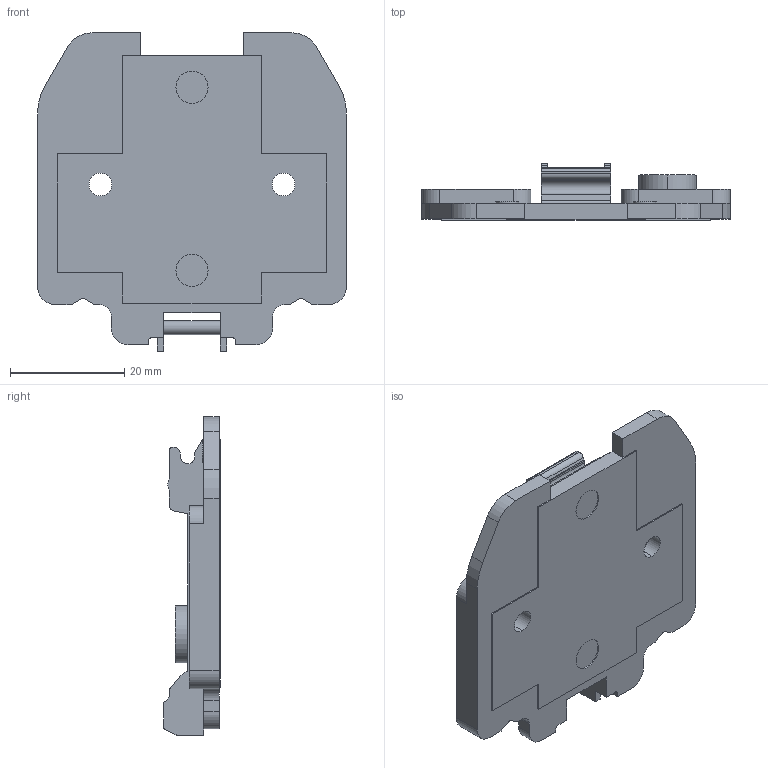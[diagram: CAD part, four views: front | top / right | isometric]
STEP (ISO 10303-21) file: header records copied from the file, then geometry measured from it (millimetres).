
FILE_DESCRIPTION (( 'STEP AP203' ), '1' );
FILE_NAME ('81T00TQ.STEP', '2020-02-12T05:30:03', ( 'Windows 蚚誧' ), ( '' ), 'SwSTEP 2.0', 'SolidWorks 2012', '' );
FILE_SCHEMA (( 'CONFIG_CONTROL_DESIGN' ));
Length unit declared in the file: millimetre
Products named in the file (1): 81T00TQ
Bounding box: 54 x 9.9 x 55.62 mm (x, y, z)
Volume: 12073.4 mm3; surface area: 7221.1 mm2
Topology: 1 solids, 1 shells, 145 faces, 402 edges, 266 vertices
Faces by surface type: plane 81, cylinder 58, cone 4, bspline 2
Entity records: 4763 total; most frequent: CARTESIAN_POINT 854, DIRECTION 808, ORIENTED_EDGE 804, EDGE_CURVE 402, VECTOR 276, LINE 276, AXIS2_PLACEMENT_3D 266, VERTEX_POINT 266
